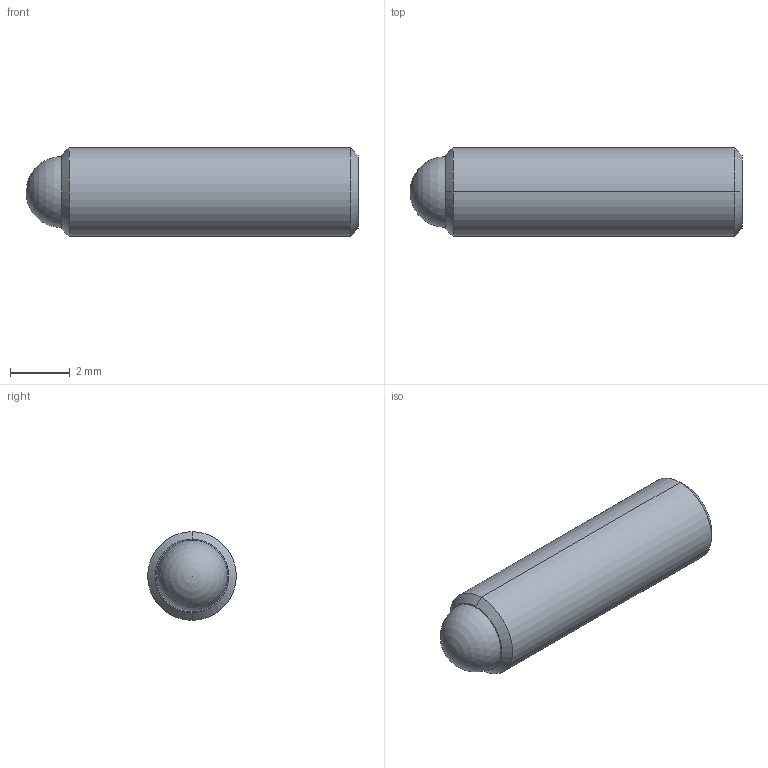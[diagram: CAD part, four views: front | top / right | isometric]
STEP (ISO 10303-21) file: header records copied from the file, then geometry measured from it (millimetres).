
FILE_DESCRIPTION (( 'STEP AP214' ), '1' );
FILE_NAME ('TS6-80-438.STEP', '2014-07-28T19:30:39', ( 'workpc' ), ( 'Microsoft' ), 'SwSTEP 2.0', 'SolidWorks 2013', '' );
FILE_SCHEMA (( 'AUTOMOTIVE_DESIGN' ));
Length unit declared in the file: inch
Products named in the file (1): TS6-80-438
Bounding box: 11.13 x 2.97 x 2.97 mm (x, y, z)
Volume: 62.3 mm3; surface area: 146.1 mm2
Topology: 2 solids, 2 shells, 20 faces, 45 edges, 29 vertices
Faces by surface type: plane 10, cylinder 4, cone 4, sphere 2
Entity records: 573 total; most frequent: DIRECTION 96, CARTESIAN_POINT 87, ORIENTED_EDGE 80, EDGE_CURVE 40, AXIS2_PLACEMENT_3D 35, VECTOR 26, VERTEX_POINT 26, LINE 26
